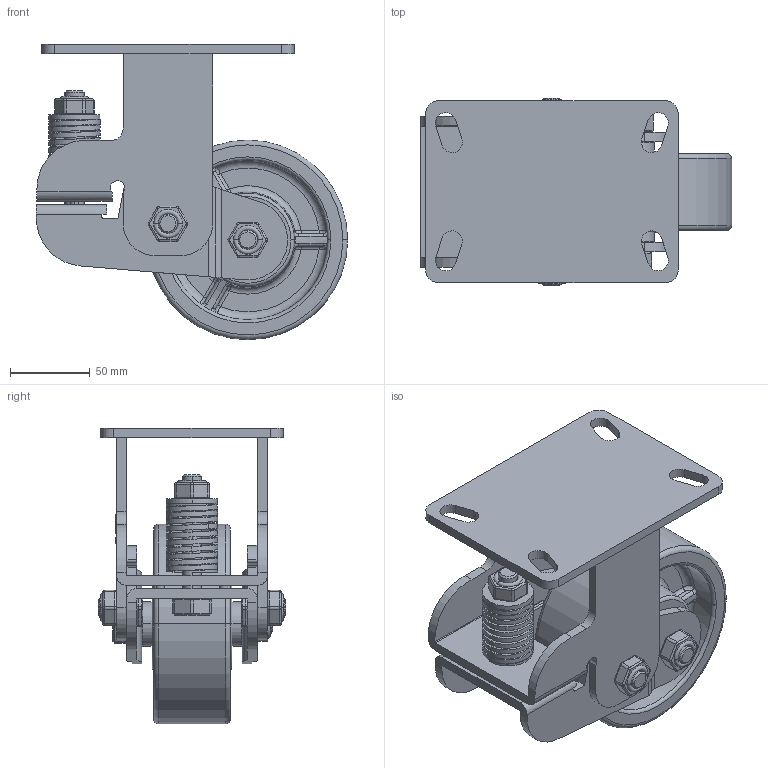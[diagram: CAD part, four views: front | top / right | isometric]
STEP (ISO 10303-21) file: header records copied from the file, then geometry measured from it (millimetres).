
FILE_DESCRIPTION(/* description */ (''),/* implementation_level */ '2;1');
FILE_NAME(/* name */ '45A02_5_F.stp',/* time_stamp */ '2022-08-29T11:12:53+08:00',/* author */ (''),/* organization */ (''),/* preprocessor_version */ 'ST-DEVELOPER v14',/* originating_system */ 'SIEMENS PLM Software NX 8.0',/* authorisation */ '');
FILE_SCHEMA (('AUTOMOTIVE_DESIGN { 1 0 10303 214 3 1 1 1 }'));
Length unit declared in the file: millimetre
Products named in the file (1): 45A02_5_F
Bounding box: 194.85 x 117.28 x 185 mm (x, y, z)
Volume: 768308.5 mm3; surface area: 213452.1 mm2
Topology: 1 solids, 1 shells, 843 faces, 2084 edges, 1286 vertices
Faces by surface type: plane 337, cylinder 266, bspline 122, torus 66, cone 52
Entity records: 32618 total; most frequent: CARTESIAN_POINT 13518, ORIENTED_EDGE 4168, DIRECTION 3759, EDGE_CURVE 2084, AXIS2_PLACEMENT_3D 1432, VERTEX_POINT 1286, EDGE_LOOP 906, LINE 895
